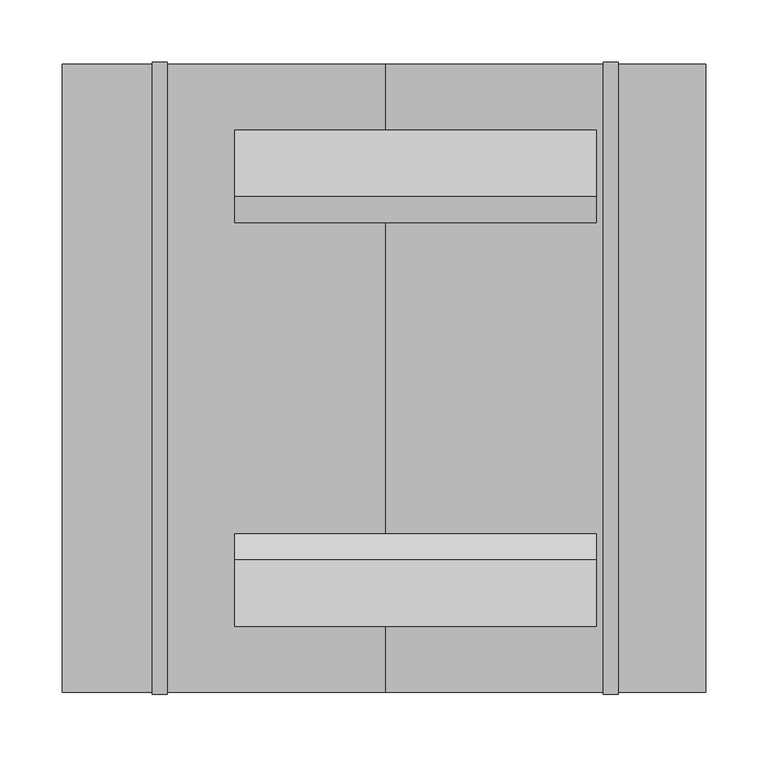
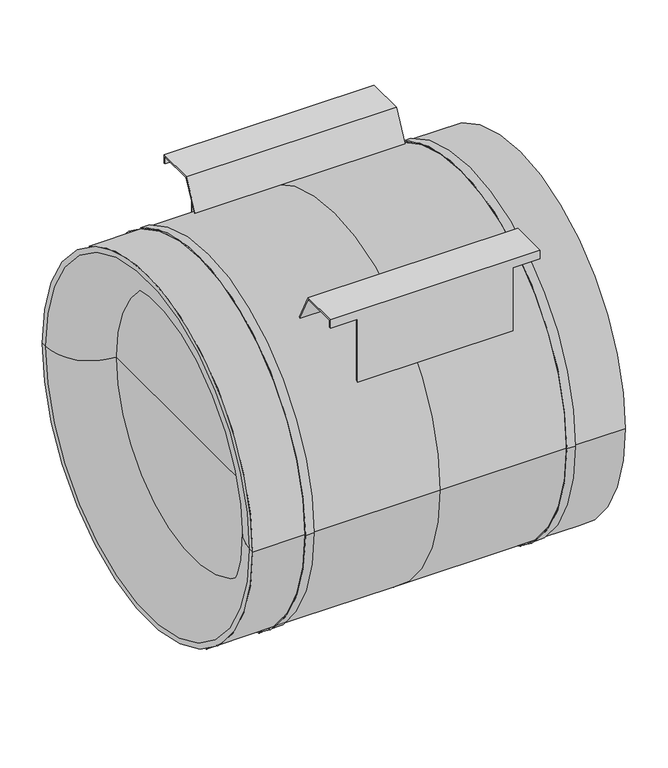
"""IFC4 building model written with IfcOpenShell, lengths in millimetres: unitary equipment geometry, VE-Wentylator-ParaForma-Harmann-JETTEC_EC-Nawiewny : 500/12200EC."""

from ifc_helpers import new_model, si_unit, point, frame, frame_2d, origin, place, context, project, spatial, polyline, circle_curve, ellipse_curve, trimmed, segment, composite_curve, outline, extrude, source, transform, mapped, element, save
from ifc_brep_helpers import plane_surface, cylinder_surface, revolved_surface, advanced_brep


def unitary_equipment_969b22ba(model_context):
    return source(origin(), model_context, "Body", "SolidModel", [
        extrude(outline(composite_curve([segment(polyline([(-45.5, -47.7), (-45.5, 47.7)]), True, "CONTINUOUS"), segment(trimmed(circle_curve(frame_2d((-40.5, 47.7)), 5.0), [point((-45.5, 47.7))], [point((-40.5, 52.7))], False, "CARTESIAN"), True, "CONTINUOUS"), segment(polyline([(-40.5, 52.7), (40.5, 52.7)]), True, "CONTINUOUS"), segment(trimmed(circle_curve(frame_2d((40.5, 47.7)), 5.0), [point((40.5, 52.7))], [point((45.5, 47.7))], False, "CARTESIAN"), True, "CONTINUOUS"), segment(polyline([(45.5, 47.7), (45.5, -47.7)]), True, "CONTINUOUS"), segment(trimmed(circle_curve(frame_2d((40.5, -47.7)), 5.0), [point((45.5, -47.7))], [point((40.5, -52.7))], False, "CARTESIAN"), True, "CONTINUOUS"), segment(polyline([(40.5, -52.7), (-40.5, -52.7)]), True, "CONTINUOUS"), segment(trimmed(circle_curve(frame_2d((-40.5, -47.7)), 5.0), [point((-40.5, -52.7))], [point((-45.5, -47.7))], False, "CARTESIAN"), True, "CONTINUOUS")], self_intersect=False)), frame((0.0, -55.0, 0.0), z_axis=(0.0, 1.0, 0.0), x_axis=(0.0, 0.0, 1.0)), (0.0, 0.0, 1.0), 45.0),
        advanced_brep(
        [(169.3, 198.9, 246.9), (169.3, 198.9, 258.9), (169.3, 145.6, 258.9), (169.3, 124.9125411, 218.6899165), (169.3, 126.647231, 217.6899202), (169.3, 146.8202037, 256.9), (169.3, 196.9, 256.9), (169.3, 196.9, 246.9), (131.8, 196.9, 246.9), (131.8, 198.9, 246.9), (-120.7, 196.9, 256.9), (-120.7, 196.9, 246.9), (-83.2, 196.9, 246.9), (-83.2, 196.9, 157.0312469), (131.8, 196.9, 157.0312469), (-120.7, 146.8202037, 256.9), (131.8, 126.647231, 217.6899202), (-83.2, 126.647231, 217.6899202), (-120.7, 126.647231, 217.6899202), (-120.7, 145.6, 258.9), (-120.7, 124.9125411, 218.6899165), (-83.2, 124.9125411, 218.6899165), (131.8, 124.9125411, 218.6899165), (-120.7, 198.9, 258.9), (131.8, 198.9, 154.4901696), (-83.2, 198.9, 154.4901696), (-83.2, 198.9, 246.9), (-120.7, 198.9, 246.9)],
        [
            (0, 1),
            (1, 2),
            (2, 3),
            (3, 4, circle_curve(frame((169.3, 0.0, 0.0), z_axis=(-1.0, 0.0, 0.0), x_axis=(0.0, 1.0, 0.0)), 251.85)),
            (4, 5),
            (5, 6),
            (6, 7),
            (7, 0),
            (7, 8),
            (8, 9),
            (9, 0),
            (6, 10),
            (10, 11),
            (11, 12),
            (12, 13),
            (13, 14),
            (14, 8),
            (5, 15),
            (15, 10),
            (4, 16),
            (16, 17),
            (17, 18),
            (18, 15),
            (19, 20),
            (20, 21),
            (21, 22),
            (22, 3),
            (2, 19),
            (1, 23),
            (23, 19),
            (9, 24),
            (24, 25),
            (25, 26),
            (26, 27),
            (27, 23),
            (20, 18, circle_curve(frame((-120.7, 0.0, 0.0), z_axis=(-1.0, 0.0, 0.0), x_axis=(0.0, 1.0, 0.0)), 251.85)),
            (17, 21, circle_curve(frame((-83.2, 0.0, 0.0), z_axis=(1.0, 0.0, 0.0), x_axis=(0.0, 1.0, 0.0)), 251.85)),
            (22, 16, circle_curve(frame((131.8, 0.0, 0.0), z_axis=(-1.0, 0.0, 0.0), x_axis=(0.0, 1.0, 0.0)), 251.85)),
            (25, 13, circle_curve(frame((-83.2, 0.0, 0.0), z_axis=(1.0, 0.0, 0.0), x_axis=(0.0, 1.0, 0.0)), 251.85)),
            (12, 26),
            (14, 24, circle_curve(frame((131.8, 0.0, 0.0), z_axis=(-1.0, 0.0, 0.0), x_axis=(0.0, 1.0, 0.0)), 251.85)),
            (27, 11),
        ],
        [
            plane_surface(frame((169.3, 0.0, 0.0), z_axis=(1.0, 0.0, 0.0), x_axis=(0.0, 0.0, 1.0))),
            plane_surface(frame((131.8, 198.9, 246.9), z_axis=(0.0, 0.0, -1.0), x_axis=(1.0, 0.0, 0.0))),
            plane_surface(frame((131.8, 196.9, 246.9), z_axis=(0.0, -1.0, 0.0), x_axis=(1.0, 0.0, 0.0))),
            plane_surface(frame((131.8, 196.9, 256.9), z_axis=(0.0, 0.0, -1.0), x_axis=(1.0, 0.0, 0.0))),
            plane_surface(frame((131.8, 146.8202037, 256.9), z_axis=(0.0, 0.8892159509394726, -0.4574876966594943), x_axis=(1.0, 0.0, 0.0))),
            plane_surface(frame((131.8, 12.4, 0.0), z_axis=(0.0, -0.8892159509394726, 0.4574876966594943), x_axis=(1.0, 0.0, 0.0))),
            plane_surface(frame((131.8, 145.6, 258.9), z_axis=(0.0, 0.0, 1.0), x_axis=(1.0, 0.0, 0.0))),
            plane_surface(frame((131.8, 198.9, 258.9), z_axis=(0.0, 1.0, 0.0), x_axis=(1.0, 0.0, 0.0))),
            revolved_surface(polyline([(-120.7, 251.85, 0.0), (-83.2, 251.85, 0.0)]), (-120.7, 0.0, 0.0), (-1.0, 0.0, 0.0)),
            revolved_surface(polyline([(131.8, 251.85, 0.0), (169.3, 251.85, 0.0)]), (131.8, 0.0, 0.0), (-1.0, 0.0, 0.0)),
            plane_surface(frame((-83.2, 0.0, 0.0), z_axis=(-1.0, 0.0, 0.0), x_axis=(0.0, 0.0, 1.0))),
            plane_surface(frame((131.8, 0.0, 0.0), z_axis=(1.0, 0.0, 0.0), x_axis=(0.0, 0.0, 1.0))),
            revolved_surface(polyline([(-83.2, 251.85, 0.0), (131.8, 251.85, 0.0)]), (-83.2, 0.0, 0.0), (-1.0, 0.0, 0.0)),
            plane_surface(frame((-120.7, 0.0, 0.0), z_axis=(-1.0, 0.0, 0.0), x_axis=(0.0, 0.0, 1.0))),
            plane_surface(frame((-120.7, 198.9, 246.9), z_axis=(0.0, 0.0, -1.0), x_axis=(1.0, 0.0, 0.0))),
        ],
        [
            (0, [[1, 2, 3, 4, 5, 6, 7, 8]]),
            (1, [[-8, 9, 10, 11]]),
            (2, [[-7, 12, 13, 14, 15, 16, 17, -9]]),
            (3, [[-12, -6, 18, 19]]),
            (4, [[-18, -5, 20, 21, 22, 23]]),
            (5, [[24, 25, 26, 27, -3, 28]]),
            (6, [[-28, -2, 29, 30]]),
            (7, [[-29, -1, -11, 31, 32, 33, 34, 35]]),
            (8, [[36, -22, 37, -25]]),
            (9, [[-4, -27, 38, -20]]),
            (10, [[39, -15, 40, -33]]),
            (11, [[41, -31, -10, -17]]),
            (12, [[-21, -38, -26, -37]]),
            (12, [[-39, -32, -41, -16]]),
            (13, [[42, -13, -19, -23, -36, -24, -30, -35]]),
            (14, [[-42, -34, -40, -14]]),
        ],
    ),
        advanced_brep(
        [(169.3, -145.6, 258.9), (169.3, -198.9, 258.9), (169.3, -198.9, 246.9), (169.3, -196.9, 246.9), (169.3, -196.9, 256.9), (169.3, -146.8202037, 256.9), (169.3, -126.647231, 217.6899202), (169.3, -124.9125411, 218.6899165), (-120.7, -146.8202037, 256.9), (-120.7, -126.647231, 217.6899202), (-83.2, -126.647231, 217.6899202), (131.8, -126.647231, 217.6899202), (-120.7, -196.9, 256.9), (131.8, -196.9, 246.9), (131.8, -196.9, 157.0312469), (-83.2, -196.9, 157.0312469), (-83.2, -196.9, 246.9), (-120.7, -196.9, 246.9), (131.8, -198.9, 246.9), (-120.7, -198.9, 258.9), (-120.7, -198.9, 246.9), (-83.2, -198.9, 246.9), (-83.2, -198.9, 154.4901696), (131.8, -198.9, 154.4901696), (-120.7, -145.6, 258.9), (131.8, -124.9125411, 218.6899165), (-83.2, -124.9125411, 218.6899165), (-120.7, -124.9125411, 218.6899165)],
        [
            (0, 1),
            (1, 2),
            (2, 3),
            (3, 4),
            (4, 5),
            (5, 6),
            (6, 7, circle_curve(frame((169.3, 0.0, 0.0), z_axis=(-1.0, 0.0, 0.0), x_axis=(0.0, 1.0, 0.0)), 251.85)),
            (7, 0),
            (8, 9),
            (9, 10),
            (10, 11),
            (11, 6),
            (5, 8),
            (4, 12),
            (12, 8),
            (3, 13),
            (13, 14),
            (14, 15),
            (15, 16),
            (16, 17),
            (17, 12),
            (2, 18),
            (18, 13),
            (1, 19),
            (19, 20),
            (20, 21),
            (21, 22),
            (22, 23),
            (23, 18),
            (0, 24),
            (24, 19),
            (7, 25),
            (25, 26),
            (26, 27),
            (27, 24),
            (9, 27, circle_curve(frame((-120.7, 0.0, 0.0), z_axis=(-1.0, 0.0, 0.0), x_axis=(0.0, 1.0, 0.0)), 251.85)),
            (26, 10, circle_curve(frame((-83.2, 0.0, 0.0), z_axis=(1.0, 0.0, 0.0), x_axis=(0.0, 1.0, 0.0)), 251.85)),
            (11, 25, circle_curve(frame((131.8, 0.0, 0.0), z_axis=(-1.0, 0.0, 0.0), x_axis=(0.0, 1.0, 0.0)), 251.85)),
            (15, 22, circle_curve(frame((-83.2, 0.0, 0.0), z_axis=(1.0, 0.0, 0.0), x_axis=(0.0, 1.0, 0.0)), 251.85)),
            (21, 16),
            (23, 14, circle_curve(frame((131.8, 0.0, 0.0), z_axis=(-1.0, 0.0, 0.0), x_axis=(0.0, 1.0, 0.0)), 251.85)),
            (17, 20),
        ],
        [
            plane_surface(frame((169.3, 0.0, 0.0), z_axis=(1.0, 0.0, 0.0), x_axis=(0.0, 0.0, 1.0))),
            plane_surface(frame((131.8, -13.6202037, -2.0), z_axis=(0.0, -0.8892159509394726, -0.45748769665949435), x_axis=(1.0, 0.0, 0.0))),
            plane_surface(frame((131.8, -146.8202037, 256.9), z_axis=(0.0, 0.0, -1.0), x_axis=(1.0, 0.0, 0.0))),
            plane_surface(frame((131.8, -196.9, 256.9), z_axis=(0.0, 1.0, 0.0), x_axis=(1.0, 0.0, 0.0))),
            plane_surface(frame((131.8, -196.9, 246.9), z_axis=(0.0, 0.0, -1.0), x_axis=(1.0, 0.0, 0.0))),
            plane_surface(frame((131.8, -198.9, 246.9), z_axis=(0.0, -1.0, 0.0), x_axis=(1.0, 0.0, 0.0))),
            plane_surface(frame((131.8, -198.9, 258.9), z_axis=(0.0, 0.0, 1.0), x_axis=(1.0, 0.0, 0.0))),
            plane_surface(frame((131.8, -145.6, 258.9), z_axis=(0.0, 0.8892159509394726, 0.4574876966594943), x_axis=(1.0, 0.0, 0.0))),
            revolved_surface(polyline([(-120.7, 251.85, 0.0), (-83.2, 251.85, 0.0)]), (-120.7, 0.0, 0.0), (-1.0, 0.0, 0.0)),
            revolved_surface(polyline([(131.8, 251.85, 0.0), (169.3, 251.85, 0.0)]), (131.8, 0.0, 0.0), (-1.0, 0.0, 0.0)),
            plane_surface(frame((-83.2, 0.0, 0.0), z_axis=(-1.0, 0.0, 0.0), x_axis=(0.0, 0.0, 1.0))),
            plane_surface(frame((131.8, 0.0, 0.0), z_axis=(1.0, 0.0, 0.0), x_axis=(0.0, 0.0, 1.0))),
            revolved_surface(polyline([(-83.2, 251.85, 0.0), (131.8, 251.85, 0.0)]), (-83.2, 0.0, 0.0), (-1.0, 0.0, 0.0)),
            plane_surface(frame((-120.7, 0.0, 0.0), z_axis=(-1.0, 0.0, 0.0), x_axis=(0.0, 0.0, 1.0))),
            plane_surface(frame((-120.7, -196.9, 246.9), z_axis=(0.0, 0.0, -1.0), x_axis=(1.0, 0.0, 0.0))),
        ],
        [
            (0, [[1, 2, 3, 4, 5, 6, 7, 8]]),
            (1, [[9, 10, 11, 12, -6, 13]]),
            (2, [[-13, -5, 14, 15]]),
            (3, [[-14, -4, 16, 17, 18, 19, 20, 21]]),
            (4, [[-3, 22, 23, -16]]),
            (5, [[-2, 24, 25, 26, 27, 28, 29, -22]]),
            (6, [[-24, -1, 30, 31]]),
            (7, [[-30, -8, 32, 33, 34, 35]]),
            (8, [[36, -34, 37, -10]]),
            (9, [[-7, -12, 38, -32]]),
            (10, [[39, -27, 40, -19]]),
            (11, [[41, -17, -23, -29]]),
            (12, [[-11, -37, -33, -38]]),
            (12, [[-39, -18, -41, -28]]),
            (13, [[-15, -21, 42, -25, -31, -35, -36, -9]]),
            (14, [[-42, -20, -40, -26]]),
        ],
    ),
        advanced_brep(
        [(-174.8, 251.9, 0.0), (0.0, 251.9, 0.0), (0.0, -251.9, 0.0), (-174.8, -251.9, 0.0), (-258.8, -251.9, 0.0), (-258.8, 251.9, 0.0), (-186.8, 251.9, 0.0), (-186.8, -251.9, 0.0), (-258.8, -244.5, 0.0), (-258.8, 244.5, 0.0), (-196.8, -182.5, 0.0), (-196.8, 182.5, 0.0), (-196.8, 0.0, 0.0), (256.8, -251.9, 0.0), (256.8, 251.9, 0.0), (256.8, 0.0, 0.0), (186.8, -251.9, 0.0), (186.8, 251.9, 0.0), (174.8, 251.9, 0.0), (174.8, -251.9, 0.0), (-174.8, -253.4, 0.0), (-174.8, 253.4, 0.0), (-186.8, -253.4, 0.0), (-186.8, 253.4, 0.0), (186.8, -253.4, 0.0), (186.8, 253.4, 0.0), (174.8, -253.4, 0.0), (174.8, 253.4, 0.0)],
        [
            (0, 1),
            (1, 2, circle_curve(frame((0.0, 0.0, 0.0), z_axis=(-1.0, 0.0, 0.0), x_axis=(0.0, 1.0, 0.0)), 251.9)),
            (2, 3),
            (3, 0, circle_curve(frame((-174.8, 0.0, 0.0), z_axis=(1.0, 0.0, 0.0), x_axis=(0.0, 1.0, 0.0)), 251.9)),
            (0, 3, circle_curve(frame((-174.8, 0.0, 0.0), z_axis=(1.0, 0.0, 0.0), x_axis=(0.0, 1.0, 0.0)), 251.9)),
            (2, 1, circle_curve(frame((0.0, 0.0, 0.0), z_axis=(-1.0, 0.0, 0.0), x_axis=(0.0, 1.0, 0.0)), 251.9)),
            (4, 5, circle_curve(frame((-258.8, 0.0, 0.0), z_axis=(1.0, 0.0, 0.0), x_axis=(0.0, 1.0, 0.0)), 251.9)),
            (5, 6),
            (6, 7, circle_curve(frame((-186.8, 0.0, 0.0), z_axis=(-1.0, 0.0, 0.0), x_axis=(0.0, 1.0, 0.0)), 251.9)),
            (7, 4),
            (5, 4, circle_curve(frame((-258.8, 0.0, 0.0), z_axis=(1.0, 0.0, 0.0), x_axis=(0.0, 1.0, 0.0)), 251.9)),
            (7, 6, circle_curve(frame((-186.8, 0.0, 0.0), z_axis=(-1.0, 0.0, 0.0), x_axis=(0.0, 1.0, 0.0)), 251.9)),
            (4, 8),
            (8, 9, circle_curve(frame((-258.8, 0.0, 0.0), z_axis=(1.0, 0.0, 0.0), x_axis=(0.0, 1.0, 0.0)), 244.5)),
            (9, 5),
            (9, 8, circle_curve(frame((-258.8, 0.0, 0.0), z_axis=(1.0, 0.0, 0.0), x_axis=(0.0, 1.0, 0.0)), 244.5)),
            (8, 10, circle_curve(frame((-196.8, -244.5, 0.0), z_axis=(0.0, 0.0, -1.0), x_axis=(1.0, 0.0, 0.0)), 62.0)),
            (10, 11, circle_curve(frame((-196.8, 0.0, 0.0), z_axis=(1.0, 0.0, 0.0), x_axis=(0.0, 1.0, 0.0)), 182.5)),
            (11, 9, circle_curve(frame((-196.8, 244.5, 0.0), z_axis=(0.0, 0.0, -1.0), x_axis=(1.0, 0.0, 0.0)), 62.0)),
            (11, 10, circle_curve(frame((-196.8, 0.0, 0.0), z_axis=(1.0, 0.0, 0.0), x_axis=(0.0, 1.0, 0.0)), 182.5)),
            (10, 12),
            (12, 11),
            (13, 14, circle_curve(frame((256.8, 0.0, 0.0), z_axis=(1.0, 0.0, 0.0), x_axis=(0.0, 1.0, 0.0)), 251.9)),
            (14, 15),
            (15, 13),
            (14, 13, circle_curve(frame((256.8, 0.0, 0.0), z_axis=(1.0, 0.0, 0.0), x_axis=(0.0, 1.0, 0.0)), 251.9)),
            (13, 16),
            (16, 17, circle_curve(frame((186.8, 0.0, 0.0), z_axis=(1.0, 0.0, 0.0), x_axis=(0.0, 1.0, 0.0)), 251.9)),
            (17, 14),
            (17, 16, circle_curve(frame((186.8, 0.0, 0.0), z_axis=(1.0, 0.0, 0.0), x_axis=(0.0, 1.0, 0.0)), 251.9)),
            (1, 18),
            (18, 19, circle_curve(frame((174.8, 0.0, 0.0), z_axis=(-1.0, 0.0, 0.0), x_axis=(0.0, 1.0, 0.0)), 251.9)),
            (19, 2),
            (19, 18, circle_curve(frame((174.8, 0.0, 0.0), z_axis=(-1.0, 0.0, 0.0), x_axis=(0.0, 1.0, 0.0)), 251.9)),
            (20, 21, circle_curve(frame((-174.8, 0.0, 0.0), z_axis=(1.0, 0.0, 0.0), x_axis=(0.0, 1.0, 0.0)), 253.4)),
            (21, 0),
            (3, 20),
            (21, 20, circle_curve(frame((-174.8, 0.0, 0.0), z_axis=(1.0, 0.0, 0.0), x_axis=(0.0, 1.0, 0.0)), 253.4)),
            (20, 22),
            (22, 23, circle_curve(frame((-186.8, 0.0, 0.0), z_axis=(1.0, 0.0, 0.0), x_axis=(0.0, 1.0, 0.0)), 253.4)),
            (23, 21),
            (23, 22, circle_curve(frame((-186.8, 0.0, 0.0), z_axis=(1.0, 0.0, 0.0), x_axis=(0.0, 1.0, 0.0)), 253.4)),
            (22, 7),
            (6, 23),
            (24, 25, circle_curve(frame((186.8, 0.0, 0.0), z_axis=(1.0, 0.0, 0.0), x_axis=(0.0, 1.0, 0.0)), 253.4)),
            (25, 17),
            (16, 24),
            (25, 24, circle_curve(frame((186.8, 0.0, 0.0), z_axis=(1.0, 0.0, 0.0), x_axis=(0.0, 1.0, 0.0)), 253.4)),
            (24, 26),
            (26, 27, circle_curve(frame((174.8, 0.0, 0.0), z_axis=(1.0, 0.0, 0.0), x_axis=(0.0, 1.0, 0.0)), 253.4)),
            (27, 25),
            (27, 26, circle_curve(frame((174.8, 0.0, 0.0), z_axis=(1.0, 0.0, 0.0), x_axis=(0.0, 1.0, 0.0)), 253.4)),
            (26, 19),
            (18, 27),
        ],
        [
            cylinder_surface(frame((-196.8, 0.0, 0.0), z_axis=(-1.0, 0.0, 0.0), x_axis=(0.0, 1.0, 0.0)), 251.9),
            plane_surface(frame((-258.8, 0.0, 0.0), z_axis=(-1.0, 0.0, 0.0), x_axis=(0.0, 1.0, 0.0))),
            revolved_surface(trimmed(ellipse_curve(frame((-196.8, 244.5, 0.0), z_axis=(0.0, 0.0, 1.0), x_axis=(1.0, 0.0, 0.0)), 62.0, 62.0), [point((-258.8, 244.5, 0.0))], [point((-196.8, 182.5, 0.0))], True, "CARTESIAN"), (-196.8, 0.0, 0.0), (-1.0, 0.0, 0.0)),
            plane_surface(frame((-196.8, 0.0, 0.0), z_axis=(-1.0, 0.0, 0.0), x_axis=(0.0, 1.0, 0.0))),
            plane_surface(frame((256.8, 0.0, 0.0), z_axis=(1.0, 0.0, 0.0), x_axis=(0.0, 1.0, 0.0))),
            cylinder_surface(frame((0.0, 0.0, 0.0), z_axis=(-1.0, 0.0, 0.0), x_axis=(0.0, 1.0, 0.0)), 251.9),
            plane_surface(frame((-174.8, 0.0, 0.0), z_axis=(1.0, 0.0, 0.0), x_axis=(0.0, 1.0, 0.0))),
            cylinder_surface(frame((-186.8, 0.0, 0.0), z_axis=(-1.0, 0.0, 0.0), x_axis=(0.0, 1.0, 0.0)), 253.4),
            plane_surface(frame((-186.8, 0.0, 0.0), z_axis=(-1.0, 0.0, 0.0), x_axis=(0.0, 1.0, 0.0))),
            plane_surface(frame((186.8, 0.0, 0.0), z_axis=(1.0, 0.0, 0.0), x_axis=(0.0, 1.0, 0.0))),
            plane_surface(frame((174.8, 0.0, 0.0), z_axis=(-1.0, 0.0, 0.0), x_axis=(0.0, 1.0, 0.0))),
        ],
        [
            (0, [[1, 2, 3, 4]]),
            (0, [[-1, 5, -3, 6]]),
            (0, [[7, 8, 9, 10]]),
            (0, [[-8, 11, -10, 12]]),
            (1, [[-7, 13, 14, 15]]),
            (1, [[-11, -15, 16, -13]]),
            (2, [[-14, 17, 18, 19]]),
            (2, [[-16, -19, 20, -17]]),
            (3, [[-18, 21, 22]]),
            (3, [[-20, -22, -21]]),
            (4, [[23, 24, 25]]),
            (4, [[-24, 26, -25]]),
            (5, [[-23, 27, 28, 29]]),
            (5, [[-26, -29, 30, -27]]),
            (5, [[31, 32, 33, -2]]),
            (5, [[-31, -6, -33, 34]]),
            (6, [[35, 36, -4, 37]]),
            (6, [[38, -37, -5, -36]]),
            (7, [[-35, 39, 40, 41]]),
            (7, [[-38, -41, 42, -39]]),
            (8, [[-40, 43, -9, 44]]),
            (8, [[-42, -44, -12, -43]]),
            (9, [[45, 46, -28, 47]]),
            (9, [[48, -47, -30, -46]]),
            (7, [[-45, 49, 50, 51]]),
            (7, [[-48, -51, 52, -49]]),
            (10, [[-50, 53, -32, 54]]),
            (10, [[-52, -54, -34, -53]]),
        ],
    ),
    ])


if __name__ == "__main__":
    model = new_model("IFC4")
    model_context = context("Model", 3, world=origin())
    ifc_project = project(units=[si_unit("LENGTHUNIT", "METRE", prefix="MILLI")], contexts=[model_context])
    site = spatial("IfcSite", under=ifc_project)
    building = spatial("IfcBuilding", under=site)
    placement = place(None, origin())
    unitary_equipment_shape = unitary_equipment_969b22ba(model_context)
    element("IfcUnitaryEquipment", 1, ObjectType="VE-Wentylator-ParaForma-Harmann-JETTEC_EC-Nawiewny : 500/12200EC", at=placement, inside=building, context=model_context, shape_type="MappedRepresentation", body=[
        mapped(unitary_equipment_shape, transform((0.0, 0.0, 0.0), x_axis=(1.0, 0.0, 0.0), y_axis=(0.0, 1.0, 0.0), z_axis=(0.0, 0.0, 1.0))),
    ])
    save(model, "model.ifc")
